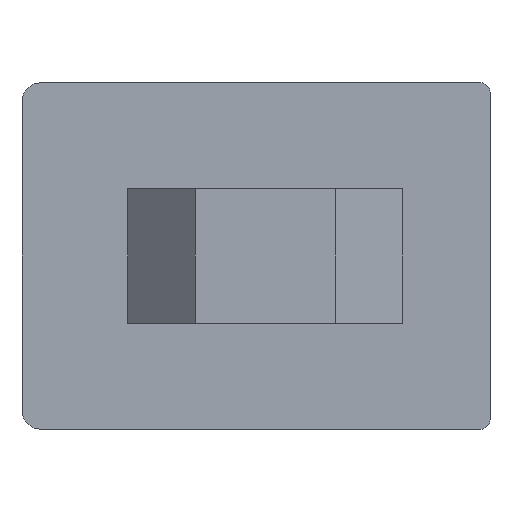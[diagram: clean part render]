
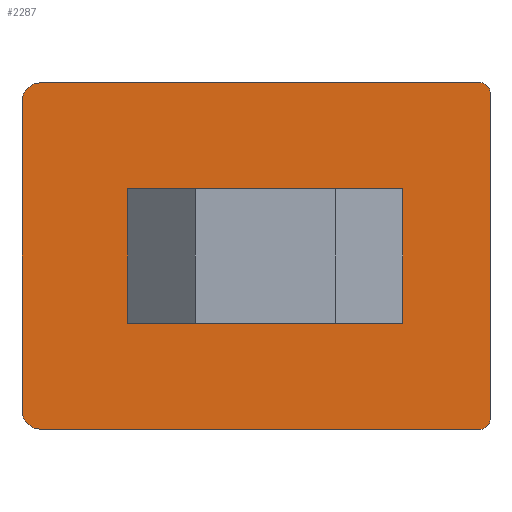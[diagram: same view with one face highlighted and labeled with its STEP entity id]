
A CAD part, front view. The second image highlights one B-rep face of the part: STEP entity #2287.
In plain terms, the highlighted planar face has unit normal (0, -1, 0).
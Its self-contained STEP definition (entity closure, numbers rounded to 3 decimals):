
#62=LINE('',#3049,#236);
#66=LINE('',#3060,#240);
#70=LINE('',#3072,#244);
#83=LINE('',#3117,#257);
#84=LINE('',#3122,#258);
#85=LINE('',#3124,#259);
#86=LINE('',#3128,#260);
#87=LINE('',#3133,#261);
#236=VECTOR('',#2555,1000.);
#240=VECTOR('',#2563,1000.);
#244=VECTOR('',#2573,1000.);
#257=VECTOR('',#2610,1000.);
#258=VECTOR('',#2613,1000.);
#259=VECTOR('',#2614,1000.);
#260=VECTOR('',#2617,1000.);
#261=VECTOR('',#2624,1000.);
#448=ORIENTED_EDGE('',*,*,#929,.T.);
#449=ORIENTED_EDGE('',*,*,#930,.T.);
#450=ORIENTED_EDGE('',*,*,#931,.T.);
#451=ORIENTED_EDGE('',*,*,#932,.T.);
#452=ORIENTED_EDGE('',*,*,#933,.T.);
#453=ORIENTED_EDGE('',*,*,#934,.T.);
#454=ORIENTED_EDGE('',*,*,#902,.T.);
#455=ORIENTED_EDGE('',*,*,#935,.F.);
#456=ORIENTED_EDGE('',*,*,#897,.F.);
#457=ORIENTED_EDGE('',*,*,#936,.F.);
#458=ORIENTED_EDGE('',*,*,#908,.F.);
#459=ORIENTED_EDGE('',*,*,#937,.F.);
#460=ORIENTED_EDGE('',*,*,#938,.T.);
#461=ORIENTED_EDGE('',*,*,#939,.F.);
#897=EDGE_CURVE('',#1138,#1139,#62,.T.);
#902=EDGE_CURVE('',#1144,#1143,#66,.T.);
#908=EDGE_CURVE('',#1149,#1150,#70,.T.);
#929=EDGE_CURVE('',#1169,#1170,#83,.T.);
#930=EDGE_CURVE('',#1170,#1171,#1300,.T.);
#931=EDGE_CURVE('',#1171,#1172,#84,.T.);
#932=EDGE_CURVE('',#1172,#1173,#85,.T.);
#933=EDGE_CURVE('',#1173,#1174,#1301,.T.);
#934=EDGE_CURVE('',#1174,#1169,#86,.T.);
#935=EDGE_CURVE('',#1139,#1143,#1302,.T.);
#936=EDGE_CURVE('',#1150,#1138,#1303,.T.);
#937=EDGE_CURVE('',#1175,#1149,#1304,.T.);
#938=EDGE_CURVE('',#1175,#1176,#87,.T.);
#939=EDGE_CURVE('',#1144,#1176,#1305,.T.);
#1138=VERTEX_POINT('',#3048);
#1139=VERTEX_POINT('',#3050);
#1143=VERTEX_POINT('',#3059);
#1144=VERTEX_POINT('',#3061);
#1149=VERTEX_POINT('',#3073);
#1150=VERTEX_POINT('',#3074);
#1169=VERTEX_POINT('',#3118);
#1170=VERTEX_POINT('',#3119);
#1171=VERTEX_POINT('',#3121);
#1172=VERTEX_POINT('',#3123);
#1173=VERTEX_POINT('',#3125);
#1174=VERTEX_POINT('',#3127);
#1175=VERTEX_POINT('',#3132);
#1176=VERTEX_POINT('',#3134);
#1300=CIRCLE('',#2403,3.5);
#1301=CIRCLE('',#2404,3.5);
#1302=CIRCLE('',#2405,0.5);
#1303=CIRCLE('',#2406,0.5);
#1304=CIRCLE('',#2407,1.);
#1305=CIRCLE('',#2408,1.);
#1357=EDGE_LOOP('',(#448,#449,#450,#451,#452,#453));
#1358=EDGE_LOOP('',(#454,#455,#456,#457,#458,#459,#460,#461));
#1464=FACE_BOUND('',#1357,.T.);
#1465=FACE_BOUND('',#1358,.T.);
#1566=PLANE('',#2402);
#2287=ADVANCED_FACE('',(#1464,#1465),#1566,.F.);
#2402=AXIS2_PLACEMENT_3D('',#3116,#2608,#2609);
#2403=AXIS2_PLACEMENT_3D('',#3120,#2611,#2612);
#2404=AXIS2_PLACEMENT_3D('',#3126,#2615,#2616);
#2405=AXIS2_PLACEMENT_3D('',#3129,#2618,#2619);
#2406=AXIS2_PLACEMENT_3D('',#3130,#2620,#2621);
#2407=AXIS2_PLACEMENT_3D('',#3131,#2622,#2623);
#2408=AXIS2_PLACEMENT_3D('',#3135,#2625,#2626);
#2555=DIRECTION('',(0.,0.,-1.));
#2563=DIRECTION('',(1.,0.,0.));
#2573=DIRECTION('',(1.,0.,0.));
#2608=DIRECTION('',(0.,1.,0.));
#2609=DIRECTION('',(0.,0.,1.));
#2610=DIRECTION('',(-1.,0.,0.));
#2611=DIRECTION('',(0.,1.,0.));
#2612=DIRECTION('',(1.,0.,0.));
#2613=DIRECTION('',(0.,0.,1.));
#2614=DIRECTION('',(1.,0.,0.));
#2615=DIRECTION('',(0.,1.,0.));
#2616=DIRECTION('',(1.,0.,0.));
#2617=DIRECTION('',(0.,0.,-1.));
#2618=DIRECTION('',(0.,1.,0.));
#2619=DIRECTION('',(1.,0.,0.));
#2620=DIRECTION('',(0.,1.,0.));
#2621=DIRECTION('',(1.,0.,0.));
#2622=DIRECTION('',(0.,1.,0.));
#2623=DIRECTION('',(1.,0.,0.));
#2624=DIRECTION('',(0.,0.,-1.));
#2625=DIRECTION('',(0.,1.,0.));
#2626=DIRECTION('',(1.,0.,0.));
#3048=CARTESIAN_POINT('',(12.,0.,8.75));
#3049=CARTESIAN_POINT('',(12.,0.,9.25));
#3050=CARTESIAN_POINT('',(12.,0.,-8.75));
#3059=CARTESIAN_POINT('',(11.5,0.,-9.25));
#3060=CARTESIAN_POINT('',(-13.866,0.,-9.25));
#3061=CARTESIAN_POINT('',(-12.,0.,-9.25));
#3072=CARTESIAN_POINT('',(-13.866,0.,9.25));
#3073=CARTESIAN_POINT('',(-12.,0.,9.25));
#3074=CARTESIAN_POINT('',(11.5,0.,9.25));
#3116=CARTESIAN_POINT('',(-13.866,0.,9.25));
#3117=CARTESIAN_POINT('',(4.,0.,-3.25));
#3118=CARTESIAN_POINT('',(4.,0.,-3.25));
#3119=CARTESIAN_POINT('',(-0.5,0.,-3.25));
#3120=CARTESIAN_POINT('',(-0.5,0.,0.25));
#3121=CARTESIAN_POINT('',(-4.,0.,0.25));
#3122=CARTESIAN_POINT('',(-4.,0.,0.25));
#3123=CARTESIAN_POINT('',(-4.,0.,3.25));
#3124=CARTESIAN_POINT('',(-4.,0.,3.25));
#3125=CARTESIAN_POINT('',(0.5,0.,3.25));
#3126=CARTESIAN_POINT('',(0.5,0.,-0.25));
#3127=CARTESIAN_POINT('',(4.,0.,-0.25));
#3128=CARTESIAN_POINT('',(4.,0.,-0.25));
#3129=CARTESIAN_POINT('',(11.5,0.,-8.75));
#3130=CARTESIAN_POINT('',(11.5,0.,8.75));
#3131=CARTESIAN_POINT('',(-12.,0.,8.25));
#3132=CARTESIAN_POINT('',(-13.,0.,8.25));
#3133=CARTESIAN_POINT('',(-13.,0.,8.25));
#3134=CARTESIAN_POINT('',(-13.,0.,-8.25));
#3135=CARTESIAN_POINT('',(-12.,0.,-8.25));
